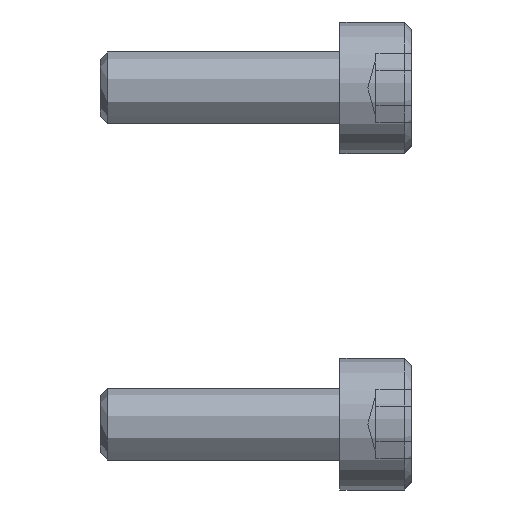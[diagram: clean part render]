
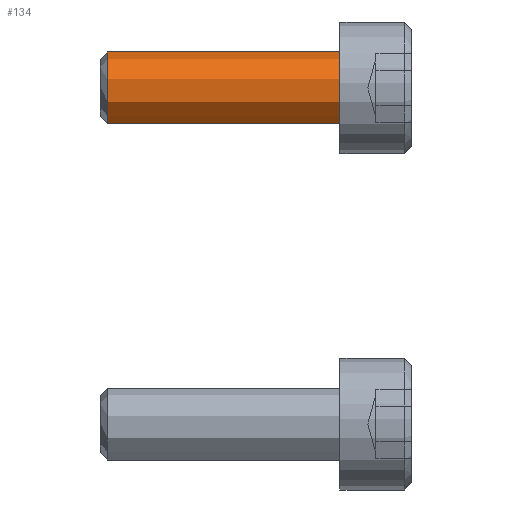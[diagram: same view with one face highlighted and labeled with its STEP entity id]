
A CAD part, left-side view. The second image highlights one B-rep face of the part: STEP entity #134.
In plain terms, the highlighted free-form (B-spline) face has degree [2, 1] with [9, 2] control points.
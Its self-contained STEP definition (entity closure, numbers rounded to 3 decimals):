
#134=ADVANCED_FACE('',(#209),#2248,.T.);
#209=FACE_OUTER_BOUND('',#288,.T.);
#288=EDGE_LOOP('',(#595,#596,#597,#598));
#595=ORIENTED_EDGE('',*,*,#1652,.F.);
#596=ORIENTED_EDGE('',*,*,#1695,.T.);
#597=ORIENTED_EDGE('',*,*,#1654,.F.);
#598=ORIENTED_EDGE('',*,*,#1694,.F.);
#716=(
BOUNDED_CURVE()
B_SPLINE_CURVE(2,(#4185,#4186,#4187,#4188,#4189),.UNSPECIFIED.,.F.,.F.)
B_SPLINE_CURVE_WITH_KNOTS((3,2,3),(-4.712,-2.356,0.),
 .UNSPECIFIED.)
CURVE()
GEOMETRIC_REPRESENTATION_ITEM()
RATIONAL_B_SPLINE_CURVE((1.,0.707,1.,0.707,1.))
REPRESENTATION_ITEM('')
);
#717=(
BOUNDED_CURVE()
B_SPLINE_CURVE(2,(#4198,#4199,#4200,#4201,#4202),.UNSPECIFIED.,.F.,.F.)
B_SPLINE_CURVE_WITH_KNOTS((3,2,3),(-4.712,-2.356,0.),
 .UNSPECIFIED.)
CURVE()
GEOMETRIC_REPRESENTATION_ITEM()
RATIONAL_B_SPLINE_CURVE((1.,0.707,1.,0.707,1.))
REPRESENTATION_ITEM('')
);
#721=(
BOUNDED_CURVE()
B_SPLINE_CURVE(2,(#4224,#4225,#4226,#4227,#4228),.UNSPECIFIED.,.F.,.F.)
B_SPLINE_CURVE_WITH_KNOTS((3,2,3),(-4.712,-2.356,0.),
 .UNSPECIFIED.)
CURVE()
GEOMETRIC_REPRESENTATION_ITEM()
RATIONAL_B_SPLINE_CURVE((1.,0.707,1.,0.707,1.))
REPRESENTATION_ITEM('')
);
#951=PCURVE('',#2243,#1275);
#953=PCURVE('',#2243,#1277);
#1024=PCURVE('',#2247,#1348);
#1027=PCURVE('',#2248,#1351);
#1028=PCURVE('',#2248,#1352);
#1029=PCURVE('',#2248,#1353);
#1030=PCURVE('',#2248,#1354);
#1033=PCURVE('',#2219,#1357);
#1275=DEFINITIONAL_REPRESENTATION('',(#1964),#4285);
#1277=DEFINITIONAL_REPRESENTATION('',(#1967),#4285);
#1348=DEFINITIONAL_REPRESENTATION('',(#2056),#4285);
#1351=DEFINITIONAL_REPRESENTATION('',(#2059),#4285);
#1352=DEFINITIONAL_REPRESENTATION('',(#2060),#4285);
#1353=DEFINITIONAL_REPRESENTATION('',(#2061),#4285);
#1354=DEFINITIONAL_REPRESENTATION('',(#2062),#4285);
#1357=DEFINITIONAL_REPRESENTATION('',(#721),#4285);
#1490=SURFACE_CURVE('',#1963,(#951,#1027),.PCURVE_S1.);
#1492=SURFACE_CURVE('',#1966,(#953,#1029),.PCURVE_S1.);
#1532=SURFACE_CURVE('',#716,(#1024,#1030),.PCURVE_S1.);
#1533=SURFACE_CURVE('',#717,(#1028,#1033),.PCURVE_S1.);
#1652=EDGE_CURVE('',#2149,#2150,#1490,.T.);
#1654=EDGE_CURVE('',#2151,#2152,#1492,.T.);
#1694=EDGE_CURVE('',#2150,#2151,#1532,.T.);
#1695=EDGE_CURVE('',#2149,#2152,#1533,.T.);
#1963=B_SPLINE_CURVE_WITH_KNOTS('',1,(#3921,#3922),.UNSPECIFIED.,.F.,.F.,
(2,2),(-9.694,0.),.UNSPECIFIED.);
#1964=B_SPLINE_CURVE_WITH_KNOTS('',1,(#3923,#3924),.UNSPECIFIED.,.F.,.F.,
(2,2),(-9.694,0.),.UNSPECIFIED.);
#1966=B_SPLINE_CURVE_WITH_KNOTS('',1,(#3932,#3933),.UNSPECIFIED.,.F.,.F.,
(2,2),(-9.694,0.),.UNSPECIFIED.);
#1967=B_SPLINE_CURVE_WITH_KNOTS('',1,(#3934,#3935),.UNSPECIFIED.,.F.,.F.,
(2,2),(-9.694,0.),.UNSPECIFIED.);
#2056=B_SPLINE_CURVE_WITH_KNOTS('',1,(#4190,#4191),.UNSPECIFIED.,.F.,.F.,
(2,2),(-4.712,0.),.UNSPECIFIED.);
#2059=B_SPLINE_CURVE_WITH_KNOTS('',1,(#4196,#4197),.UNSPECIFIED.,.F.,.F.,
(2,2),(-9.694,0.),.UNSPECIFIED.);
#2060=B_SPLINE_CURVE_WITH_KNOTS('',1,(#4203,#4204),.UNSPECIFIED.,.F.,.F.,
(2,2),(-4.712,0.),.UNSPECIFIED.);
#2061=B_SPLINE_CURVE_WITH_KNOTS('',1,(#4205,#4206),.UNSPECIFIED.,.F.,.F.,
(2,2),(-9.694,0.),.UNSPECIFIED.);
#2062=B_SPLINE_CURVE_WITH_KNOTS('',1,(#4207,#4208),.UNSPECIFIED.,.F.,.F.,
(2,2),(-4.712,0.),.UNSPECIFIED.);
#2149=VERTEX_POINT('',#3855);
#2150=VERTEX_POINT('',#3856);
#2151=VERTEX_POINT('',#3857);
#2152=VERTEX_POINT('',#3858);
#2219=PLANE('',#2336);
#2243=(
BOUNDED_SURFACE()
B_SPLINE_SURFACE(2,1,((#3690,#3691),(#3692,#3693),(#3694,#3695),(#3696,#3697),
(#3698,#3699),(#3700,#3701),(#3702,#3703),(#3704,#3705),(#3706,#3707)),
 .UNSPECIFIED.,.T.,.F.,.F.)
B_SPLINE_SURFACE_WITH_KNOTS((3,2,2,2,3),(2,2),(0.,1.571,3.142,
4.712,6.283),(0.,11.635),.UNSPECIFIED.)
GEOMETRIC_REPRESENTATION_ITEM()
RATIONAL_B_SPLINE_SURFACE(((1.,1.),(0.707,0.707),
(1.,1.),(0.707,0.707),(1.,1.),(0.707,
0.707),(1.,1.),(0.707,0.707),(1.,1.)))
REPRESENTATION_ITEM('')
SURFACE()
);
#2247=(
BOUNDED_SURFACE()
B_SPLINE_SURFACE(2,1,((#3775,#3776),(#3777,#3778),(#3779,#3780),(#3781,#3782),
(#3783,#3784),(#3785,#3786),(#3787,#3788),(#3789,#3790),(#3791,#3792)),
 .UNSPECIFIED.,.T.,.F.,.F.)
B_SPLINE_SURFACE_WITH_KNOTS((3,2,2,2,3),(2,2),(0.,1.571,3.142,
4.712,6.283),(0.,2.335),.UNSPECIFIED.)
GEOMETRIC_REPRESENTATION_ITEM()
RATIONAL_B_SPLINE_SURFACE(((1.,1.),(0.707,0.707),
(1.,1.),(0.707,0.707),(1.,1.),(0.707,
0.707),(1.,1.),(0.707,0.707),(1.,1.)))
REPRESENTATION_ITEM('')
SURFACE()
);
#2248=(
BOUNDED_SURFACE()
B_SPLINE_SURFACE(2,1,((#3793,#3794),(#3795,#3796),(#3797,#3798),(#3799,#3800),
(#3801,#3802),(#3803,#3804),(#3805,#3806),(#3807,#3808),(#3809,#3810)),
 .UNSPECIFIED.,.T.,.F.,.F.)
B_SPLINE_SURFACE_WITH_KNOTS((3,2,2,2,3),(2,2),(0.,1.571,3.142,
4.712,6.283),(0.,11.635),.UNSPECIFIED.)
GEOMETRIC_REPRESENTATION_ITEM()
RATIONAL_B_SPLINE_SURFACE(((1.,1.),(0.707,0.707),
(1.,1.),(0.707,0.707),(1.,1.),(0.707,
0.707),(1.,1.),(0.707,0.707),(1.,1.)))
REPRESENTATION_ITEM('')
SURFACE()
);
#2336=AXIS2_PLACEMENT_3D('',#3811,#2388,$);
#2388=DIRECTION('',(1.,0.,0.));
#3690=CARTESIAN_POINT('',(-0.971,1.5,0.));
#3691=CARTESIAN_POINT('',(10.664,1.5,0.));
#3692=CARTESIAN_POINT('',(-0.971,1.5,1.5));
#3693=CARTESIAN_POINT('',(10.664,1.5,1.5));
#3694=CARTESIAN_POINT('',(-0.971,0.,1.5));
#3695=CARTESIAN_POINT('',(10.664,0.,1.5));
#3696=CARTESIAN_POINT('',(-0.971,-1.5,1.5));
#3697=CARTESIAN_POINT('',(10.664,-1.5,1.5));
#3698=CARTESIAN_POINT('',(-0.971,-1.5,0.));
#3699=CARTESIAN_POINT('',(10.664,-1.5,0.));
#3700=CARTESIAN_POINT('',(-0.971,-1.5,-1.5));
#3701=CARTESIAN_POINT('',(10.664,-1.5,-1.5));
#3702=CARTESIAN_POINT('',(-0.971,0.,-1.5));
#3703=CARTESIAN_POINT('',(10.664,0.,-1.5));
#3704=CARTESIAN_POINT('',(-0.971,1.5,-1.5));
#3705=CARTESIAN_POINT('',(10.664,1.5,-1.5));
#3706=CARTESIAN_POINT('',(-0.971,1.5,0.));
#3707=CARTESIAN_POINT('',(10.664,1.5,0.));
#3775=CARTESIAN_POINT('',(11.194,0.,0.));
#3776=CARTESIAN_POINT('',(9.542,-1.651,0.));
#3777=CARTESIAN_POINT('',(11.194,0.,0.));
#3778=CARTESIAN_POINT('',(9.542,-1.651,1.651));
#3779=CARTESIAN_POINT('',(11.194,0.,0.));
#3780=CARTESIAN_POINT('',(9.542,0.,1.651));
#3781=CARTESIAN_POINT('',(11.194,0.,0.));
#3782=CARTESIAN_POINT('',(9.542,1.651,1.651));
#3783=CARTESIAN_POINT('',(11.194,0.,0.));
#3784=CARTESIAN_POINT('',(9.542,1.651,0.));
#3785=CARTESIAN_POINT('',(11.194,0.,0.));
#3786=CARTESIAN_POINT('',(9.542,1.651,-1.651));
#3787=CARTESIAN_POINT('',(11.194,0.,0.));
#3788=CARTESIAN_POINT('',(9.542,0.,-1.651));
#3789=CARTESIAN_POINT('',(11.194,0.,0.));
#3790=CARTESIAN_POINT('',(9.542,-1.651,-1.651));
#3791=CARTESIAN_POINT('',(11.194,0.,0.));
#3792=CARTESIAN_POINT('',(9.542,-1.651,0.));
#3793=CARTESIAN_POINT('',(-0.971,-1.5,0.));
#3794=CARTESIAN_POINT('',(10.664,-1.5,0.));
#3795=CARTESIAN_POINT('',(-0.971,-1.5,-1.5));
#3796=CARTESIAN_POINT('',(10.664,-1.5,-1.5));
#3797=CARTESIAN_POINT('',(-0.971,0.,-1.5));
#3798=CARTESIAN_POINT('',(10.664,0.,-1.5));
#3799=CARTESIAN_POINT('',(-0.971,1.5,-1.5));
#3800=CARTESIAN_POINT('',(10.664,1.5,-1.5));
#3801=CARTESIAN_POINT('',(-0.971,1.5,0.));
#3802=CARTESIAN_POINT('',(10.664,1.5,0.));
#3803=CARTESIAN_POINT('',(-0.971,1.5,1.5));
#3804=CARTESIAN_POINT('',(10.664,1.5,1.5));
#3805=CARTESIAN_POINT('',(-0.971,0.,1.5));
#3806=CARTESIAN_POINT('',(10.664,0.,1.5));
#3807=CARTESIAN_POINT('',(-0.971,-1.5,1.5));
#3808=CARTESIAN_POINT('',(10.664,-1.5,1.5));
#3809=CARTESIAN_POINT('',(-0.971,-1.5,0.));
#3810=CARTESIAN_POINT('',(10.664,-1.5,0.));
#3811=CARTESIAN_POINT('',(0.,3.301,-3.301));
#3855=CARTESIAN_POINT('',(0.,0.,-1.5));
#3856=CARTESIAN_POINT('',(9.694,0.,-1.5));
#3857=CARTESIAN_POINT('',(9.694,0.,1.5));
#3858=CARTESIAN_POINT('',(0.,0.,1.5));
#3921=CARTESIAN_POINT('',(0.,0.,-1.5));
#3922=CARTESIAN_POINT('',(9.694,0.,-1.5));
#3923=CARTESIAN_POINT('',(4.712,0.971));
#3924=CARTESIAN_POINT('',(4.712,10.664));
#3932=CARTESIAN_POINT('',(9.694,0.,1.5));
#3933=CARTESIAN_POINT('',(0.,0.,1.5));
#3934=CARTESIAN_POINT('',(1.571,10.664));
#3935=CARTESIAN_POINT('',(1.571,0.971));
#4185=CARTESIAN_POINT('',(9.694,0.,-1.5));
#4186=CARTESIAN_POINT('',(9.694,1.5,-1.5));
#4187=CARTESIAN_POINT('',(9.694,1.5,0.));
#4188=CARTESIAN_POINT('',(9.694,1.5,1.5));
#4189=CARTESIAN_POINT('',(9.694,0.,1.5));
#4190=CARTESIAN_POINT('',(4.712,2.121));
#4191=CARTESIAN_POINT('',(1.571,2.121));
#4196=CARTESIAN_POINT('',(1.571,0.971));
#4197=CARTESIAN_POINT('',(1.571,10.664));
#4198=CARTESIAN_POINT('',(0.,0.,-1.5));
#4199=CARTESIAN_POINT('',(0.,1.5,-1.5));
#4200=CARTESIAN_POINT('',(0.,1.5,0.));
#4201=CARTESIAN_POINT('',(0.,1.5,1.5));
#4202=CARTESIAN_POINT('',(0.,0.,1.5));
#4203=CARTESIAN_POINT('',(1.571,0.971));
#4204=CARTESIAN_POINT('',(4.712,0.971));
#4205=CARTESIAN_POINT('',(4.712,10.664));
#4206=CARTESIAN_POINT('',(4.712,0.971));
#4207=CARTESIAN_POINT('',(1.571,10.664));
#4208=CARTESIAN_POINT('',(4.712,10.664));
#4224=CARTESIAN_POINT('',(0.625,0.));
#4225=CARTESIAN_POINT('',(0.625,-1.5));
#4226=CARTESIAN_POINT('',(2.125,-1.5));
#4227=CARTESIAN_POINT('',(3.625,-1.5));
#4228=CARTESIAN_POINT('',(3.625,0.));
#4285=(
GEOMETRIC_REPRESENTATION_CONTEXT(2)
PARAMETRIC_REPRESENTATION_CONTEXT()
REPRESENTATION_CONTEXT('pspace','')
);
